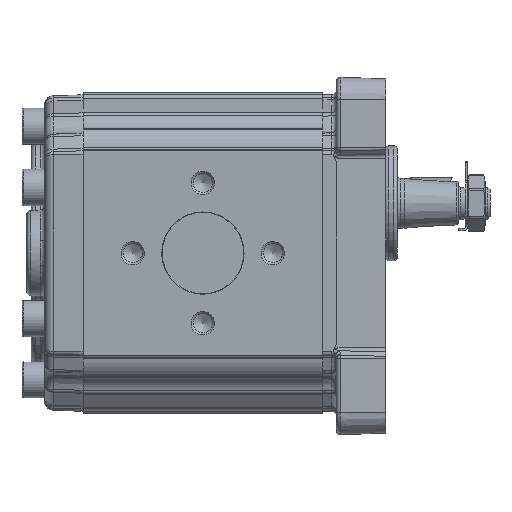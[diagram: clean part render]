
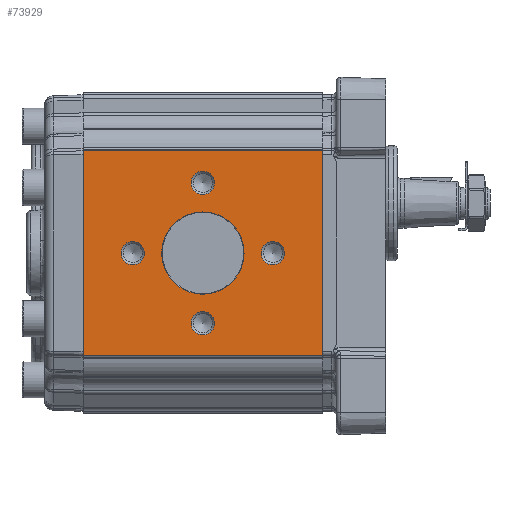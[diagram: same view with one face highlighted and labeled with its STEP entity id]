
A CAD part, left-side view. The second image highlights one B-rep face of the part: STEP entity #73929.
In plain terms, the highlighted planar face has unit normal (-1, 0, 0) as drawn and (1, 0, 0) by its records, which use the part's own axes.
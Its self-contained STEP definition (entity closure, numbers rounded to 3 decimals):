
#2271=LINE('',#112982,#5981);
#2282=LINE('',#113067,#5992);
#2320=LINE('',#113175,#6030);
#2321=LINE('',#113176,#6031);
#5981=VECTOR('',#89039,1000.);
#5992=VECTOR('',#89114,1000.);
#6030=VECTOR('',#89240,1000.);
#6031=VECTOR('',#89241,1000.);
#8311=PLANE('',#78372);
#19842=ORIENTED_EDGE('',*,*,#32942,.T.);
#19843=ORIENTED_EDGE('',*,*,#32943,.T.);
#19844=ORIENTED_EDGE('',*,*,#32944,.T.);
#19845=ORIENTED_EDGE('',*,*,#32945,.T.);
#19846=ORIENTED_EDGE('',*,*,#32946,.T.);
#19847=ORIENTED_EDGE('',*,*,#32846,.F.);
#19848=ORIENTED_EDGE('',*,*,#32947,.T.);
#19849=ORIENTED_EDGE('',*,*,#32888,.F.);
#19850=ORIENTED_EDGE('',*,*,#32948,.T.);
#32846=EDGE_CURVE('',#40023,#40024,#2271,.T.);
#32888=EDGE_CURVE('',#40065,#40066,#2282,.T.);
#32942=EDGE_CURVE('',#40087,#40087,#44480,.F.);
#32943=EDGE_CURVE('',#40088,#40088,#44481,.F.);
#32944=EDGE_CURVE('',#40089,#40089,#44482,.F.);
#32945=EDGE_CURVE('',#40090,#40090,#44483,.F.);
#32946=EDGE_CURVE('',#40091,#40091,#44484,.F.);
#32947=EDGE_CURVE('',#40023,#40066,#2320,.F.);
#32948=EDGE_CURVE('',#40065,#40024,#2321,.F.);
#40023=VERTEX_POINT('',#112981);
#40024=VERTEX_POINT('',#112983);
#40065=VERTEX_POINT('',#113066);
#40066=VERTEX_POINT('',#113068);
#40087=VERTEX_POINT('',#113166);
#40088=VERTEX_POINT('',#113168);
#40089=VERTEX_POINT('',#113170);
#40090=VERTEX_POINT('',#113172);
#40091=VERTEX_POINT('',#113174);
#44480=CIRCLE('',#78373,5.188);
#44481=CIRCLE('',#78374,5.188);
#44482=CIRCLE('',#78375,5.188);
#44483=CIRCLE('',#78376,5.188);
#44484=CIRCLE('',#78377,18.2);
#47511=EDGE_LOOP('',(#19842));
#47512=EDGE_LOOP('',(#19843));
#47513=EDGE_LOOP('',(#19844));
#47514=EDGE_LOOP('',(#19845));
#47515=EDGE_LOOP('',(#19846));
#47516=EDGE_LOOP('',(#19847,#19848,#19849,#19850));
#50528=FACE_BOUND('',#47511,.T.);
#50529=FACE_BOUND('',#47512,.T.);
#50530=FACE_BOUND('',#47513,.T.);
#50531=FACE_BOUND('',#47514,.T.);
#50532=FACE_BOUND('',#47515,.T.);
#50533=FACE_BOUND('',#47516,.T.);
#73929=ADVANCED_FACE('',(#50528,#50529,#50530,#50531,#50532,#50533),#8311,
 .T.);
#78372=AXIS2_PLACEMENT_3D('',#113164,#89228,#89229);
#78373=AXIS2_PLACEMENT_3D('',#113165,#89230,#89231);
#78374=AXIS2_PLACEMENT_3D('',#113167,#89232,#89233);
#78375=AXIS2_PLACEMENT_3D('',#113169,#89234,#89235);
#78376=AXIS2_PLACEMENT_3D('',#113171,#89236,#89237);
#78377=AXIS2_PLACEMENT_3D('',#113173,#89238,#89239);
#89039=DIRECTION('',(0.,0.,-1.));
#89114=DIRECTION('',(0.,0.,1.));
#89228=DIRECTION('',(1.,0.,0.));
#89229=DIRECTION('',(0.,0.,1.));
#89230=DIRECTION('',(1.,0.,0.));
#89231=DIRECTION('',(0.,0.,1.));
#89232=DIRECTION('',(1.,0.,0.));
#89233=DIRECTION('',(0.,0.,1.));
#89234=DIRECTION('',(1.,0.,0.));
#89235=DIRECTION('',(0.,0.,1.));
#89236=DIRECTION('',(1.,0.,0.));
#89237=DIRECTION('',(0.,0.,1.));
#89238=DIRECTION('',(1.,0.,0.));
#89239=DIRECTION('',(0.,0.,1.));
#89240=DIRECTION('',(0.,1.,0.));
#89241=DIRECTION('',(0.,-1.,0.));
#112981=CARTESIAN_POINT('',(57.5,106.,45.5));
#112982=CARTESIAN_POINT('',(57.5,106.,84.819));
#112983=CARTESIAN_POINT('',(57.5,106.,-45.5));
#113066=CARTESIAN_POINT('',(57.5,0.,-45.5));
#113067=CARTESIAN_POINT('',(57.5,0.,44.978));
#113068=CARTESIAN_POINT('',(57.5,0.,45.5));
#113164=CARTESIAN_POINT('',(57.5,-130.588,84.819));
#113165=CARTESIAN_POINT('',(57.5,53.,-31.));
#113166=CARTESIAN_POINT('',(57.5,53.,-25.812));
#113167=CARTESIAN_POINT('',(57.5,84.,0.));
#113168=CARTESIAN_POINT('',(57.5,84.,5.188));
#113169=CARTESIAN_POINT('',(57.5,53.,31.));
#113170=CARTESIAN_POINT('',(57.5,53.,36.188));
#113171=CARTESIAN_POINT('',(57.5,22.,0.));
#113172=CARTESIAN_POINT('',(57.5,22.,5.188));
#113173=CARTESIAN_POINT('',(57.5,53.,0.));
#113174=CARTESIAN_POINT('',(57.5,53.,18.2));
#113175=CARTESIAN_POINT('',(57.5,-130.588,45.5));
#113176=CARTESIAN_POINT('',(57.5,-130.588,-45.5));
